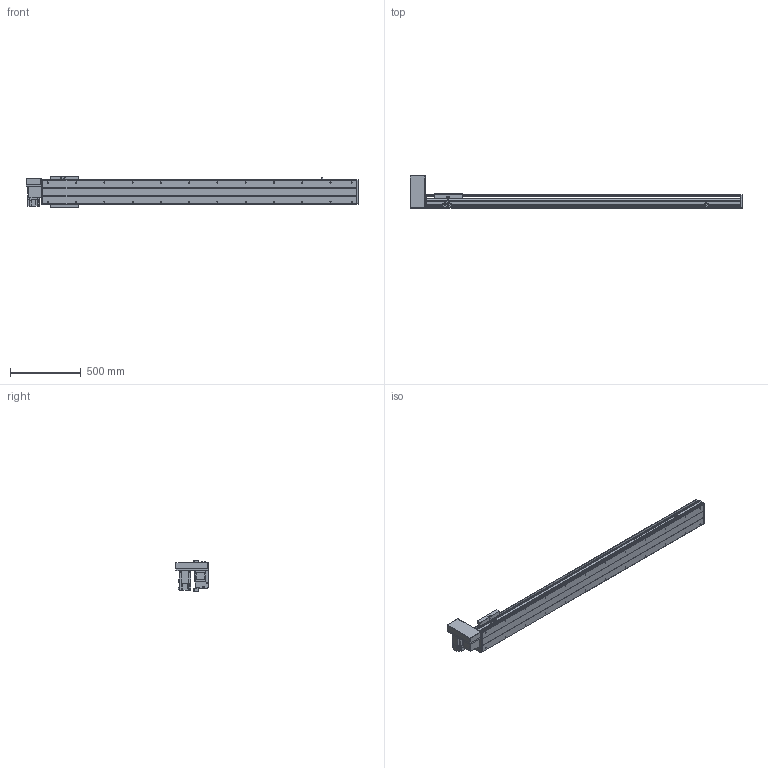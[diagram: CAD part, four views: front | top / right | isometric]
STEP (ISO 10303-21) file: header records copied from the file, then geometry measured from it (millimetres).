
FILE_DESCRIPTION(/* description */ ('STEP AP214'),/* implementation_level */ '2;1');
FILE_NAME(/* name */ 'PBS200-P40-S1850-RU-T75-C1-N(0)',/* time_stamp */ '2022-06-11T09:36:32+02:00',/* author */ ('License CC BY-ND 4.0'),/* organization */ ('CADENAS'),/* preprocessor_version */ 'ST-DEVELOPER v18.102',/* originating_system */ 'PARTsolutions',/* authorisation */ ' ');
FILE_SCHEMA (('AUTOMOTIVE_DESIGN {1 0 10303 214 3 1 1}'));
Length unit declared in the file: millimetre
Products named in the file (7): PBS200-P40-S1850-RU-T75-C1-N(0); PBS200_sensor; PBS200_plant; PBS200_sliser; T75-p1; PBS200T-RU_motors; PBS200-S1850()_body
Assembly tree (8 placements, depth 2):
  PBS200-P40-S1850-RU-T75-C1-N(0)
    PBS200_sensor  x3
    PBS200_plant
    PBS200_sliser
    T75-p1
    PBS200T-RU_motors
    PBS200-S1850()_body
Bounding box: 2350 x 231 x 221 mm (x, y, z)
Volume: 16545168.9 mm3; surface area: 2656330.5 mm2
Topology: 8 solids, 8 shells, 944 faces, 2414 edges, 1572 vertices
Faces by surface type: plane 582, cylinder 306, cone 56
Full cylindrical faces by diameter (mm): 2.459 x6, 3.242 x4, 4.5 x6, 4.917 x4, 5 x6, 6 x7, 6.6 x8, 6.647 x28, 8 x6, 10 x4, 12 x8, 38 x2, 40 x1, 70 x1
Entity records: 25061 total; most frequent: DIRECTION 4423, CARTESIAN_POINT 4264, ORIENTED_EDGE 4030, EDGE_CURVE 2015, AXIS2_PLACEMENT_3D 1555, VERTEX_POINT 1396, LINE 1313, VECTOR 1313
